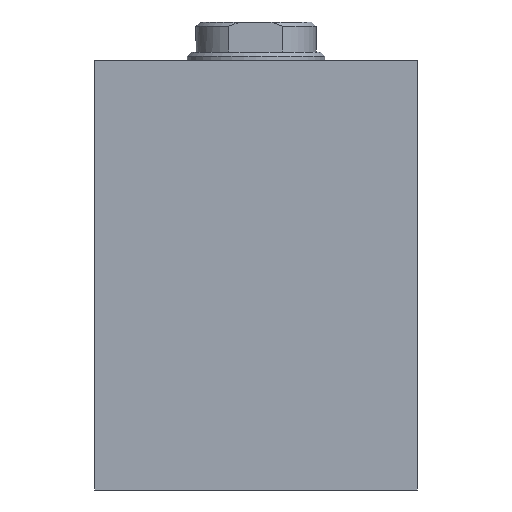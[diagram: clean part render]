
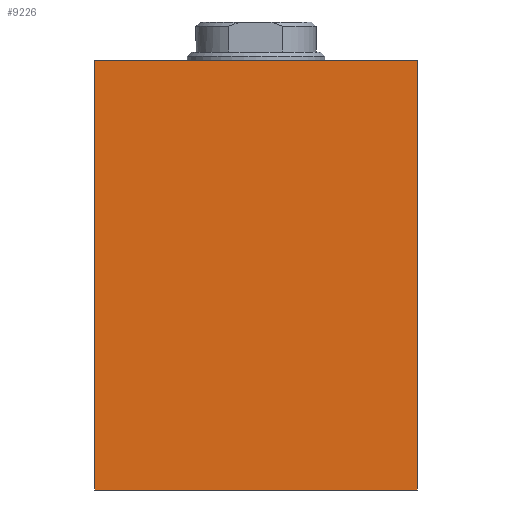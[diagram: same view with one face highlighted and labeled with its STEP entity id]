
A CAD part, front view. The second image highlights one B-rep face of the part: STEP entity #9226.
In plain terms, the highlighted planar face has unit normal (0, -1, 0).
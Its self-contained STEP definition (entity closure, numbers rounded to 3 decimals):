
#223 = ORIENTED_EDGE ( 'NONE', *, *, #3124, .T. ) ;
#1200 = AXIS2_PLACEMENT_3D ( 'NONE', #9602, #20965, #6358 ) ;
#1631 = EDGE_CURVE ( 'NONE', #3133, #15506, #20911, .T. ) ;
#1678 = CARTESIAN_POINT ( 'NONE',  ( 0., 0., 0. ) ) ;
#2633 = VERTEX_POINT ( 'NONE', #5123 ) ;
#2703 = CARTESIAN_POINT ( 'NONE',  ( 75., 0., 0. ) ) ;
#3124 = EDGE_CURVE ( 'NONE', #5138, #3133, #16353, .T. ) ;
#3133 = VERTEX_POINT ( 'NONE', #6583 ) ;
#5123 = CARTESIAN_POINT ( 'NONE',  ( 75., 0., 100. ) ) ;
#5138 = VERTEX_POINT ( 'NONE', #18998 ) ;
#5386 = CARTESIAN_POINT ( 'NONE',  ( 0., 0., 100. ) ) ;
#6358 = DIRECTION ( 'NONE',  ( 0., 0., 1. ) ) ;
#6583 = CARTESIAN_POINT ( 'NONE',  ( 0., 0., 0. ) ) ;
#6922 = DIRECTION ( 'NONE',  ( 0., 0., -1. ) ) ;
#7309 = VECTOR ( 'NONE', #13285, 1000. ) ;
#7456 = DIRECTION ( 'NONE',  ( 0., 0., -1. ) ) ;
#8049 = DIRECTION ( 'NONE',  ( 1., 0., 0. ) ) ;
#8386 = EDGE_CURVE ( 'NONE', #5138, #2633, #17027, .T. ) ;
#8818 = CARTESIAN_POINT ( 'NONE',  ( 75., 0., 100. ) ) ;
#9226 = ADVANCED_FACE ( 'NONE', ( #10594 ), #20900, .F. ) ;
#9602 = CARTESIAN_POINT ( 'NONE',  ( 0., 0., 100. ) ) ;
#10014 = CARTESIAN_POINT ( 'NONE',  ( 0., 0., 100. ) ) ;
#10453 = ORIENTED_EDGE ( 'NONE', *, *, #8386, .F. ) ;
#10594 = FACE_OUTER_BOUND ( 'NONE', #12379, .T. ) ;
#11192 = LINE ( 'NONE', #8818, #13250 ) ;
#12379 = EDGE_LOOP ( 'NONE', ( #18110, #16702, #10453, #223 ) ) ;
#13250 = VECTOR ( 'NONE', #6922, 1000. ) ;
#13285 = DIRECTION ( 'NONE',  ( 1., 0., 0. ) ) ;
#15330 = EDGE_CURVE ( 'NONE', #2633, #15506, #11192, .T. ) ;
#15506 = VERTEX_POINT ( 'NONE', #2703 ) ;
#16353 = LINE ( 'NONE', #5386, #20897 ) ;
#16702 = ORIENTED_EDGE ( 'NONE', *, *, #15330, .F. ) ;
#17027 = LINE ( 'NONE', #10014, #7309 ) ;
#18110 = ORIENTED_EDGE ( 'NONE', *, *, #1631, .T. ) ;
#18998 = CARTESIAN_POINT ( 'NONE',  ( 0., 0., 100. ) ) ;
#19906 = VECTOR ( 'NONE', #8049, 1000. ) ;
#20897 = VECTOR ( 'NONE', #7456, 1000. ) ;
#20900 = PLANE ( 'NONE',  #1200 ) ;
#20911 = LINE ( 'NONE', #1678, #19906 ) ;
#20965 = DIRECTION ( 'NONE',  ( 0., 1., 0. ) ) ;
